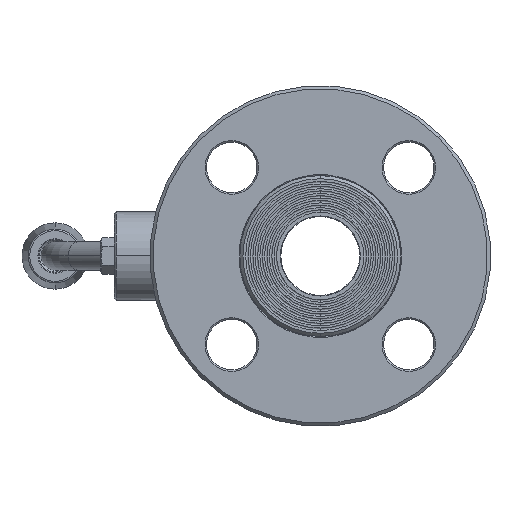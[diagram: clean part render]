
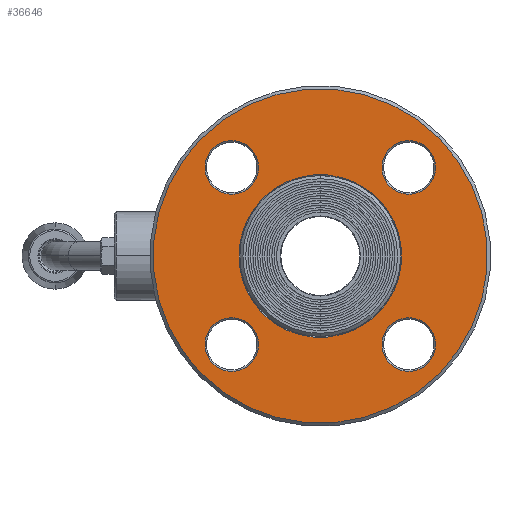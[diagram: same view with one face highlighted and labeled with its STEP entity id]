
A CAD part, left-side view. The second image highlights one B-rep face of the part: STEP entity #36646.
In plain terms, the highlighted planar face has unit normal (-1, 0, 0).
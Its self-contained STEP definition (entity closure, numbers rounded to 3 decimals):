
#11790=CARTESIAN_POINT('',(-60.5,0.,0.));
#11791=DIRECTION('',(-1.,0.,0.));
#11792=DIRECTION('',(0.,0.707,-0.707));
#11793=AXIS2_PLACEMENT_3D('',#11790,#11791,#11792);
#11798=CARTESIAN_POINT('',(-60.5,0.,0.));
#11799=DIRECTION('',(-1.,0.,0.));
#11800=DIRECTION('',(0.,-0.707,0.707));
#11801=AXIS2_PLACEMENT_3D('',#11798,#11799,#11800);
#11806=CARTESIAN_POINT('',(-60.5,0.,0.));
#11807=DIRECTION('',(-1.,0.,0.));
#11808=DIRECTION('',(0.,-0.707,0.707));
#11809=AXIS2_PLACEMENT_3D('',#11806,#11807,#11808);
#11814=CARTESIAN_POINT('',(-60.5,0.,0.));
#11815=DIRECTION('',(-1.,0.,0.));
#11816=DIRECTION('',(0.,0.707,-0.707));
#11817=AXIS2_PLACEMENT_3D('',#11814,#11815,#11816);
#11822=CARTESIAN_POINT('',(-60.5,-28.072,28.072));
#11823=DIRECTION('',(1.,0.,0.));
#11824=DIRECTION('',(0.,-0.707,0.707));
#11825=AXIS2_PLACEMENT_3D('',#11822,#11823,#11824);
#11830=CARTESIAN_POINT('',(-60.5,-28.072,28.072));
#11831=DIRECTION('',(1.,0.,0.));
#11832=DIRECTION('',(0.,0.707,-0.707));
#11833=AXIS2_PLACEMENT_3D('',#11830,#11831,#11832);
#11838=CARTESIAN_POINT('',(-60.5,28.072,28.072));
#11839=DIRECTION('',(1.,0.,0.));
#11840=DIRECTION('',(0.,-0.707,0.707));
#11841=AXIS2_PLACEMENT_3D('',#11838,#11839,#11840);
#11846=CARTESIAN_POINT('',(-60.5,28.072,28.072));
#11847=DIRECTION('',(1.,0.,0.));
#11848=DIRECTION('',(0.,0.707,-0.707));
#11849=AXIS2_PLACEMENT_3D('',#11846,#11847,#11848);
#11854=CARTESIAN_POINT('',(-60.5,28.072,-28.072));
#11855=DIRECTION('',(1.,0.,0.));
#11856=DIRECTION('',(0.,-0.707,0.707));
#11857=AXIS2_PLACEMENT_3D('',#11854,#11855,#11856);
#11862=CARTESIAN_POINT('',(-60.5,28.072,-28.072));
#11863=DIRECTION('',(1.,0.,0.));
#11864=DIRECTION('',(0.,0.707,-0.707));
#11865=AXIS2_PLACEMENT_3D('',#11862,#11863,#11864);
#11870=CARTESIAN_POINT('',(-60.5,-28.072,-28.072));
#11871=DIRECTION('',(1.,0.,0.));
#11872=DIRECTION('',(0.,-0.707,0.707));
#11873=AXIS2_PLACEMENT_3D('',#11870,#11871,#11872);
#11878=CARTESIAN_POINT('',(-60.5,-28.072,-28.072));
#11879=DIRECTION('',(1.,0.,0.));
#11880=DIRECTION('',(0.,0.707,-0.707));
#11881=AXIS2_PLACEMENT_3D('',#11878,#11879,#11880);
#26066=CARTESIAN_POINT('',(-60.5,37.477,-37.477));
#26067=CARTESIAN_POINT('',(-60.5,-37.477,37.477));
#26068=VERTEX_POINT('',#26066);
#26069=VERTEX_POINT('',#26067);
#26086=CARTESIAN_POINT('',(-60.5,-18.243,18.243));
#26087=CARTESIAN_POINT('',(-60.5,18.243,-18.243));
#26088=VERTEX_POINT('',#26086);
#26089=VERTEX_POINT('',#26087);
#26090=CARTESIAN_POINT('',(-60.5,-34.082,34.082));
#26091=CARTESIAN_POINT('',(-60.5,-22.062,22.062));
#26092=VERTEX_POINT('',#26090);
#26093=VERTEX_POINT('',#26091);
#26098=CARTESIAN_POINT('',(-60.5,22.062,34.082));
#26099=CARTESIAN_POINT('',(-60.5,34.082,22.062));
#26100=VERTEX_POINT('',#26098);
#26101=VERTEX_POINT('',#26099);
#26106=CARTESIAN_POINT('',(-60.5,22.062,-22.062));
#26107=CARTESIAN_POINT('',(-60.5,34.082,-34.082));
#26108=VERTEX_POINT('',#26106);
#26109=VERTEX_POINT('',#26107);
#26114=CARTESIAN_POINT('',(-60.5,-34.082,-22.062));
#26115=CARTESIAN_POINT('',(-60.5,-22.062,-34.082));
#26116=VERTEX_POINT('',#26114);
#26117=VERTEX_POINT('',#26115);
#36606=CARTESIAN_POINT('',(-60.5,0.,0.));
#36607=DIRECTION('',(-1.,0.,0.));
#36608=DIRECTION('',(0.,0.707,-0.707));
#36609=AXIS2_PLACEMENT_3D('',#36606,#36607,#36608);
#36610=PLANE('',#36609);
#36612=ORIENTED_EDGE('',*,*,#36611,.F.);
#36613=ORIENTED_EDGE('',*,*,#36596,.F.);
#36614=EDGE_LOOP('',(#36612,#36613));
#36615=FACE_OUTER_BOUND('',#36614,.F.);
#36617=ORIENTED_EDGE('',*,*,#36616,.T.);
#36619=ORIENTED_EDGE('',*,*,#36618,.T.);
#36620=EDGE_LOOP('',(#36617,#36619));
#36621=FACE_BOUND('',#36620,.F.);
#36623=ORIENTED_EDGE('',*,*,#36622,.F.);
#36625=ORIENTED_EDGE('',*,*,#36624,.F.);
#36626=EDGE_LOOP('',(#36623,#36625));
#36627=FACE_BOUND('',#36626,.F.);
#36629=ORIENTED_EDGE('',*,*,#36628,.F.);
#36631=ORIENTED_EDGE('',*,*,#36630,.F.);
#36632=EDGE_LOOP('',(#36629,#36631));
#36633=FACE_BOUND('',#36632,.F.);
#36635=ORIENTED_EDGE('',*,*,#36634,.F.);
#36637=ORIENTED_EDGE('',*,*,#36636,.F.);
#36638=EDGE_LOOP('',(#36635,#36637));
#36639=FACE_BOUND('',#36638,.F.);
#36641=ORIENTED_EDGE('',*,*,#36640,.F.);
#36643=ORIENTED_EDGE('',*,*,#36642,.F.);
#36644=EDGE_LOOP('',(#36641,#36643));
#36645=FACE_BOUND('',#36644,.F.);
#36646=ADVANCED_FACE('',(#36615,#36621,#36627,#36633,#36639,#36645),#36610,.T.);
#11794=CIRCLE('',#11793,53.);
#11802=CIRCLE('',#11801,53.);
#11810=CIRCLE('',#11809,25.8);
#11818=CIRCLE('',#11817,25.8);
#11826=CIRCLE('',#11825,8.5);
#11834=CIRCLE('',#11833,8.5);
#11842=CIRCLE('',#11841,8.5);
#11850=CIRCLE('',#11849,8.5);
#11858=CIRCLE('',#11857,8.5);
#11866=CIRCLE('',#11865,8.5);
#11874=CIRCLE('',#11873,8.5);
#11882=CIRCLE('',#11881,8.5);
#36596=EDGE_CURVE('',#26069,#26068,#11802,.T.);
#36611=EDGE_CURVE('',#26068,#26069,#11794,.T.);
#36616=EDGE_CURVE('',#26088,#26089,#11810,.T.);
#36618=EDGE_CURVE('',#26089,#26088,#11818,.T.);
#36622=EDGE_CURVE('',#26092,#26093,#11826,.T.);
#36624=EDGE_CURVE('',#26093,#26092,#11834,.T.);
#36628=EDGE_CURVE('',#26100,#26101,#11842,.T.);
#36630=EDGE_CURVE('',#26101,#26100,#11850,.T.);
#36634=EDGE_CURVE('',#26108,#26109,#11858,.T.);
#36636=EDGE_CURVE('',#26109,#26108,#11866,.T.);
#36640=EDGE_CURVE('',#26116,#26117,#11874,.T.);
#36642=EDGE_CURVE('',#26117,#26116,#11882,.T.);
